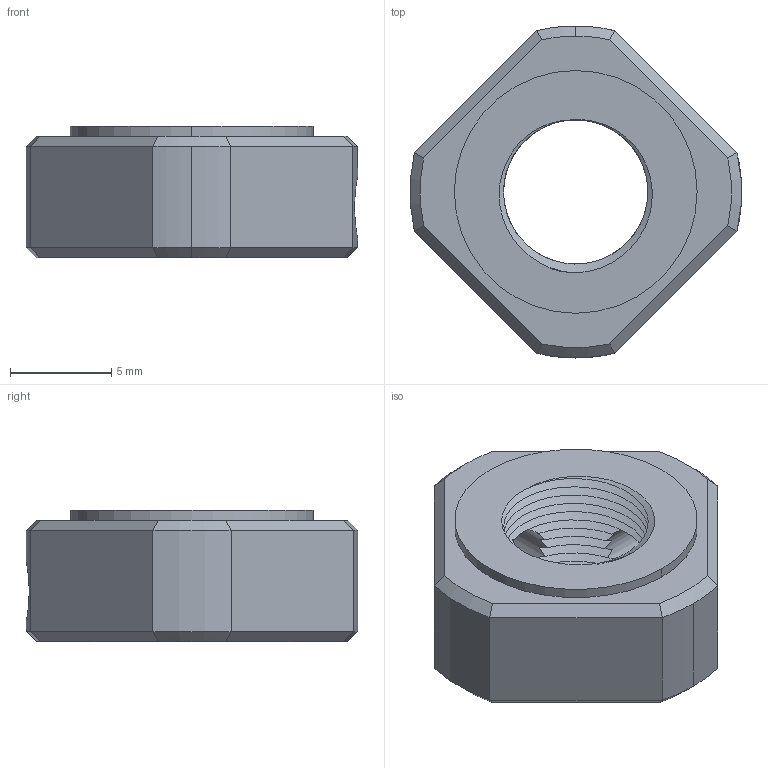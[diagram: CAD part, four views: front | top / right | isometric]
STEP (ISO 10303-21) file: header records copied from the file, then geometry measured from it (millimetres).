
FILE_DESCRIPTION (( 'STEP AP203' ), '1' );
FILE_NAME ('RNM8.STEP', '2013-05-22T03:54:28', ( '' ), ( '' ), 'SwSTEP 2.0', 'SolidWorks 2013', '' );
FILE_SCHEMA (( 'CONFIG_CONTROL_DESIGN' ));
Length unit declared in the file: millimetre
Products named in the file (1): RNM8
Bounding box: 16.37 x 16.4 x 6.5 mm (x, y, z)
Volume: 804.9 mm3; surface area: 911.6 mm2
Topology: 1 solids, 1 shells, 61 faces, 159 edges, 99 vertices
Faces by surface type: bspline 25, plane 15, cylinder 11, cone 10
Entity records: 13275 total; most frequent: CARTESIAN_POINT 11997, ORIENTED_EDGE 318, EDGE_CURVE 159, DIRECTION 157, VERTEX_POINT 99, B_SPLINE_CURVE_WITH_KNOTS 78, EDGE_LOOP 66, AXIS2_PLACEMENT_3D 62
